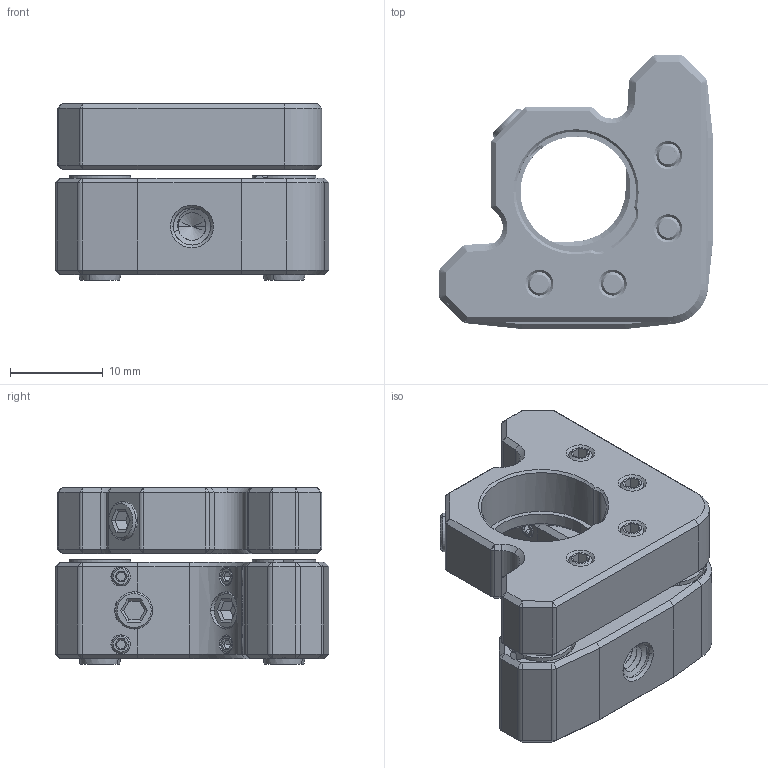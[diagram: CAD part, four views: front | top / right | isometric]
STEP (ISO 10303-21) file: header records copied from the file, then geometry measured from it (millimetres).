
FILE_DESCRIPTION((''),'2;1');
FILE_NAME('MS-A12_ASM','2020-10-31T',('Administrator'),(''),'CREO PARAMETRIC BY PTC INC, 2015290','CREO PARAMETRIC BY PTC INC, 2015290','');
FILE_SCHEMA(('CONFIG_CONTROL_DESIGN'));
Products named in the file (21): SPACER_6X1; MS-A12_A1; M2_5X6_HS; AXLE_1_5X6; M4X4_HSP; AXLE_1_5X6_2; M2X2_HS; AXLE_1_5X6_3; SPRING_3X11; AXLE_1_5X6_4; SPRING_3X11_2; AXLE_1_5X8; MS-A12_A4; AXLE_1_5X6_5; M4X3_HS; MS-A12_A3; SPRING_3X11_3; AXLE_1_5X6_6; SPRING_3X11_4; MS-A12_A2; MS-A12_ASM
Assembly tree (36 placements, depth 2):
  MS-A12_ASM
    SPACER_6X1
    MS-A12_A1
    M2_5X6_HS  x4
    AXLE_1_5X6
    M4X4_HSP
    AXLE_1_5X6_2
    M2X2_HS  x6
    AXLE_1_5X6_3
    SPRING_3X11
    AXLE_1_5X6_4
    SPRING_3X11_2
    AXLE_1_5X8  x3
    MS-A12_A4  x3
    AXLE_1_5X6_5
    M4X3_HS  x3
    MS-A12_A3  x3
    SPRING_3X11_3
    AXLE_1_5X6_6
    SPRING_3X11_4
    MS-A12_A2
Bounding box: 29.46 x 29.46 x 19.01 mm (x, y, z)
Volume: 6687.4 mm3; surface area: 9130.2 mm2
Topology: 32 solids, 32 shells, 1922 faces, 5118 edges, 3223 vertices
Faces by surface type: cylinder 666, bspline 578, plane 455, cone 221, torus 2
Entity records: 98500 total; most frequent: CARTESIAN_POINT 72307, ORIENTED_EDGE 6156, DIRECTION 4049, EDGE_CURVE 3078, VERTEX_POINT 1931, AXIS2_PLACEMENT_3D 1371, VECTOR 1307, LINE 1307
